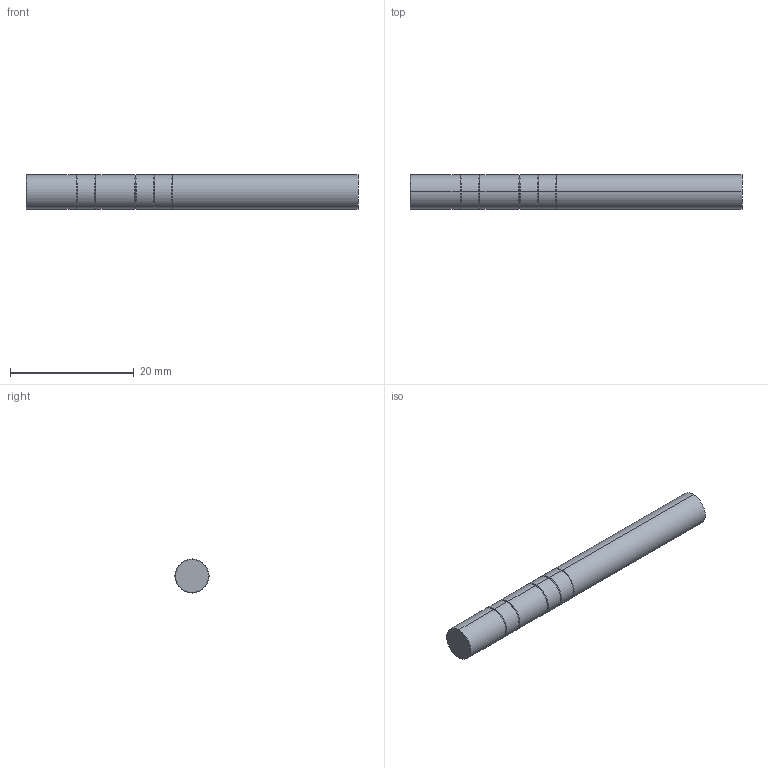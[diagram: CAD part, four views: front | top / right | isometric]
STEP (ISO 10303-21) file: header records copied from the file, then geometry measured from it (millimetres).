
FILE_DESCRIPTION (( 'STEP AP214' ), '1' );
FILE_NAME ('t12.stp', '2017-06-26T10:17:11', ( '' ), ( '' ), 'SwSTEP 2.0', 'SolidWorks 2015', '' );
FILE_SCHEMA (( 'AUTOMOTIVE_DESIGN' ));
Length unit declared in the file: millimetre
Products named in the file (1): t12
Bounding box: 53.7 x 5.5 x 5.5 mm (x, y, z)
Volume: 1275 mm3; surface area: 982.1 mm2
Topology: 1 solids, 1 shells, 35 faces, 68 edges, 36 vertices
Faces by surface type: cone 20, cylinder 12, plane 3
Entity records: 985 total; most frequent: DIRECTION 176, CARTESIAN_POINT 140, ORIENTED_EDGE 136, AXIS2_PLACEMENT_3D 72, EDGE_CURVE 68, EDGE_LOOP 36, CIRCLE 36, VERTEX_POINT 36
